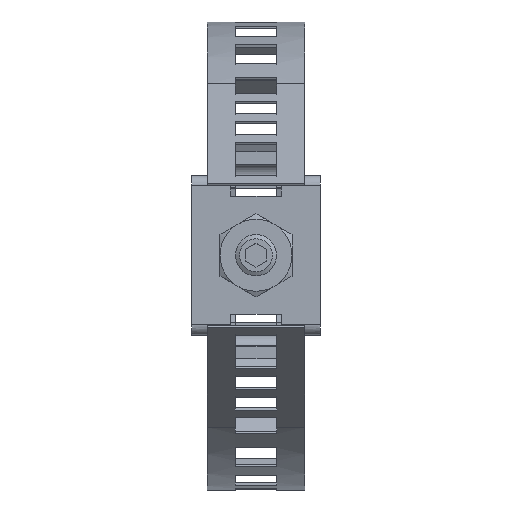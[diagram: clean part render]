
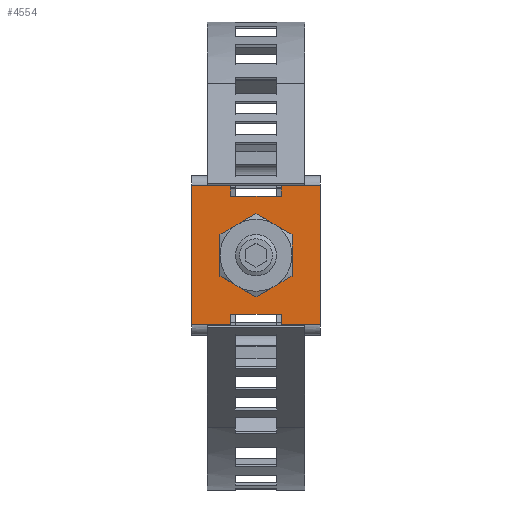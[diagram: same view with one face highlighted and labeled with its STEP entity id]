
A CAD part, top view. The second image highlights one B-rep face of the part: STEP entity #4554.
In plain terms, the highlighted planar face has unit normal (0, 0, 1).
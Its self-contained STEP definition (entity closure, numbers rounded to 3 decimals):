
#255=CIRCLE('',#4945,3.5);
#256=CIRCLE('',#4946,3.5);
#257=CIRCLE('',#4947,3.5);
#258=CIRCLE('',#4948,3.5);
#259=CIRCLE('',#4949,3.5);
#260=CIRCLE('',#4950,3.5);
#1386=ORIENTED_EDGE('',*,*,#2153,.F.);
#1387=ORIENTED_EDGE('',*,*,#2154,.F.);
#1388=ORIENTED_EDGE('',*,*,#2155,.F.);
#1389=ORIENTED_EDGE('',*,*,#2156,.F.);
#1390=ORIENTED_EDGE('',*,*,#2157,.F.);
#1391=ORIENTED_EDGE('',*,*,#2158,.F.);
#1392=ORIENTED_EDGE('',*,*,#2159,.T.);
#1393=ORIENTED_EDGE('',*,*,#2037,.F.);
#1394=ORIENTED_EDGE('',*,*,#2147,.T.);
#1395=ORIENTED_EDGE('',*,*,#2151,.T.);
#1396=ORIENTED_EDGE('',*,*,#2148,.T.);
#1397=ORIENTED_EDGE('',*,*,#2042,.F.);
#1398=ORIENTED_EDGE('',*,*,#2131,.F.);
#1399=ORIENTED_EDGE('',*,*,#2061,.T.);
#1400=ORIENTED_EDGE('',*,*,#2123,.F.);
#1401=ORIENTED_EDGE('',*,*,#2124,.F.);
#1402=ORIENTED_EDGE('',*,*,#2118,.F.);
#1403=ORIENTED_EDGE('',*,*,#2058,.T.);
#2037=EDGE_CURVE('',#2554,#2555,#3001,.T.);
#2042=EDGE_CURVE('',#2558,#2556,#3003,.T.);
#2058=EDGE_CURVE('',#2571,#2573,#3011,.T.);
#2061=EDGE_CURVE('',#2576,#2575,#3013,.T.);
#2118=EDGE_CURVE('',#2571,#2608,#3061,.T.);
#2123=EDGE_CURVE('',#2609,#2575,#3066,.T.);
#2124=EDGE_CURVE('',#2608,#2609,#3067,.T.);
#2131=EDGE_CURVE('',#2576,#2558,#3074,.T.);
#2147=EDGE_CURVE('',#2554,#2618,#3090,.T.);
#2148=EDGE_CURVE('',#2619,#2556,#3091,.T.);
#2151=EDGE_CURVE('',#2618,#2619,#3094,.T.);
#2153=EDGE_CURVE('',#2620,#2621,#255,.T.);
#2154=EDGE_CURVE('',#2622,#2620,#256,.T.);
#2155=EDGE_CURVE('',#2623,#2622,#257,.T.);
#2156=EDGE_CURVE('',#2624,#2623,#258,.T.);
#2157=EDGE_CURVE('',#2625,#2624,#259,.T.);
#2158=EDGE_CURVE('',#2621,#2625,#260,.T.);
#2159=EDGE_CURVE('',#2573,#2555,#3096,.T.);
#2554=VERTEX_POINT('',#7201);
#2555=VERTEX_POINT('',#7203);
#2556=VERTEX_POINT('',#7207);
#2558=VERTEX_POINT('',#7211);
#2571=VERTEX_POINT('',#7240);
#2573=VERTEX_POINT('',#7244);
#2575=VERTEX_POINT('',#7250);
#2576=VERTEX_POINT('',#7252);
#2608=VERTEX_POINT('',#7363);
#2609=VERTEX_POINT('',#7369);
#2618=VERTEX_POINT('',#7412);
#2619=VERTEX_POINT('',#7416);
#2620=VERTEX_POINT('',#7425);
#2621=VERTEX_POINT('',#7426);
#2622=VERTEX_POINT('',#7428);
#2623=VERTEX_POINT('',#7430);
#2624=VERTEX_POINT('',#7432);
#2625=VERTEX_POINT('',#7434);
#3001=LINE('',#7202,#3455);
#3003=LINE('',#7212,#3457);
#3011=LINE('',#7245,#3465);
#3013=LINE('',#7251,#3467);
#3061=LINE('',#7362,#3515);
#3066=LINE('',#7370,#3520);
#3067=LINE('',#7372,#3521);
#3074=LINE('',#7385,#3528);
#3090=LINE('',#7413,#3544);
#3091=LINE('',#7415,#3545);
#3094=LINE('',#7420,#3548);
#3096=LINE('',#7436,#3550);
#3455=VECTOR('',#5890,1000.);
#3457=VECTOR('',#5900,1000.);
#3465=VECTOR('',#5928,1000.);
#3467=VECTOR('',#5934,1000.);
#3515=VECTOR('',#6044,1000.);
#3520=VECTOR('',#6051,1000.);
#3521=VECTOR('',#6054,1000.);
#3528=VECTOR('',#6069,1000.);
#3544=VECTOR('',#6095,1000.);
#3545=VECTOR('',#6098,1000.);
#3548=VECTOR('',#6103,1000.);
#3550=VECTOR('',#6121,1000.);
#3830=EDGE_LOOP('',(#1386,#1387,#1388,#1389,#1390,#1391));
#3831=EDGE_LOOP('',(#1392,#1393,#1394,#1395,#1396,#1397,#1398,#1399,#1400,
#1401,#1402,#1403));
#4142=FACE_BOUND('',#3830,.T.);
#4143=FACE_BOUND('',#3831,.T.);
#4348=PLANE('',#4944);
#4554=ADVANCED_FACE('',(#4142,#4143),#4348,.T.);
#4944=AXIS2_PLACEMENT_3D('',#7423,#6107,#6108);
#4945=AXIS2_PLACEMENT_3D('',#7424,#6109,#6110);
#4946=AXIS2_PLACEMENT_3D('',#7427,#6111,#6112);
#4947=AXIS2_PLACEMENT_3D('',#7429,#6113,#6114);
#4948=AXIS2_PLACEMENT_3D('',#7431,#6115,#6116);
#4949=AXIS2_PLACEMENT_3D('',#7433,#6117,#6118);
#4950=AXIS2_PLACEMENT_3D('',#7435,#6119,#6120);
#5890=DIRECTION('',(-1.,0.,0.));
#5900=DIRECTION('',(-1.,0.,0.));
#5928=DIRECTION('',(-1.,0.,0.));
#5934=DIRECTION('',(-1.,0.,0.));
#6044=DIRECTION('',(0.,-1.,0.));
#6051=DIRECTION('',(0.,1.,0.));
#6054=DIRECTION('',(1.,0.,0.));
#6069=DIRECTION('',(0.,-1.,0.));
#6095=DIRECTION('',(0.,1.,0.));
#6098=DIRECTION('',(0.,-1.,0.));
#6103=DIRECTION('',(1.,0.,0.));
#6107=DIRECTION('',(0.,0.,1.));
#6108=DIRECTION('',(0.,1.,0.));
#6109=DIRECTION('',(0.,0.,1.));
#6110=DIRECTION('',(-0.5,0.866,0.));
#6111=DIRECTION('',(0.,0.,1.));
#6112=DIRECTION('',(-0.5,0.866,0.));
#6113=DIRECTION('',(0.,0.,1.));
#6114=DIRECTION('',(-0.5,0.866,0.));
#6115=DIRECTION('',(0.,0.,1.));
#6116=DIRECTION('',(-0.5,0.866,0.));
#6117=DIRECTION('',(0.,0.,1.));
#6118=DIRECTION('',(-0.5,0.866,0.));
#6119=DIRECTION('',(0.,0.,1.));
#6120=DIRECTION('',(-0.5,0.866,0.));
#6121=DIRECTION('',(0.,-1.,0.));
#7201=CARTESIAN_POINT('',(-17.45,186.196,-74.96));
#7202=CARTESIAN_POINT('',(-8.75,186.196,-74.96));
#7203=CARTESIAN_POINT('',(-21.25,186.196,-74.96));
#7207=CARTESIAN_POINT('',(-12.55,186.196,-74.96));
#7211=CARTESIAN_POINT('',(-8.75,186.196,-74.96));
#7212=CARTESIAN_POINT('',(-8.75,186.196,-74.96));
#7240=CARTESIAN_POINT('',(-17.45,199.696,-74.96));
#7244=CARTESIAN_POINT('',(-21.25,199.696,-74.96));
#7245=CARTESIAN_POINT('',(-8.75,199.696,-74.96));
#7250=CARTESIAN_POINT('',(-12.55,199.696,-74.96));
#7251=CARTESIAN_POINT('',(-8.75,199.696,-74.96));
#7252=CARTESIAN_POINT('',(-8.75,199.696,-74.96));
#7362=CARTESIAN_POINT('',(-17.45,191.946,-74.96));
#7363=CARTESIAN_POINT('',(-17.45,198.696,-74.96));
#7369=CARTESIAN_POINT('',(-12.55,198.696,-74.96));
#7370=CARTESIAN_POINT('',(-12.55,193.196,-74.96));
#7372=CARTESIAN_POINT('',(-10.65,198.696,-74.96));
#7385=CARTESIAN_POINT('',(-8.75,200.696,-74.96));
#7412=CARTESIAN_POINT('',(-17.45,187.196,-74.96));
#7413=CARTESIAN_POINT('',(-17.45,193.946,-74.96));
#7415=CARTESIAN_POINT('',(-12.55,192.696,-74.96));
#7416=CARTESIAN_POINT('',(-12.55,187.196,-74.96));
#7420=CARTESIAN_POINT('',(-10.65,187.196,-74.96));
#7423=CARTESIAN_POINT('',(-8.75,200.696,-74.96));
#7424=CARTESIAN_POINT('',(-15.,192.946,-74.96));
#7425=CARTESIAN_POINT('',(-11.5,192.946,-74.96));
#7426=CARTESIAN_POINT('',(-13.25,195.977,-74.96));
#7427=CARTESIAN_POINT('',(-15.,192.946,-74.96));
#7428=CARTESIAN_POINT('',(-13.25,189.914,-74.96));
#7429=CARTESIAN_POINT('',(-15.,192.946,-74.96));
#7430=CARTESIAN_POINT('',(-16.75,189.914,-74.96));
#7431=CARTESIAN_POINT('',(-15.,192.946,-74.96));
#7432=CARTESIAN_POINT('',(-18.5,192.946,-74.96));
#7433=CARTESIAN_POINT('',(-15.,192.946,-74.96));
#7434=CARTESIAN_POINT('',(-16.75,195.977,-74.96));
#7435=CARTESIAN_POINT('',(-15.,192.946,-74.96));
#7436=CARTESIAN_POINT('',(-21.25,185.196,-74.96));
